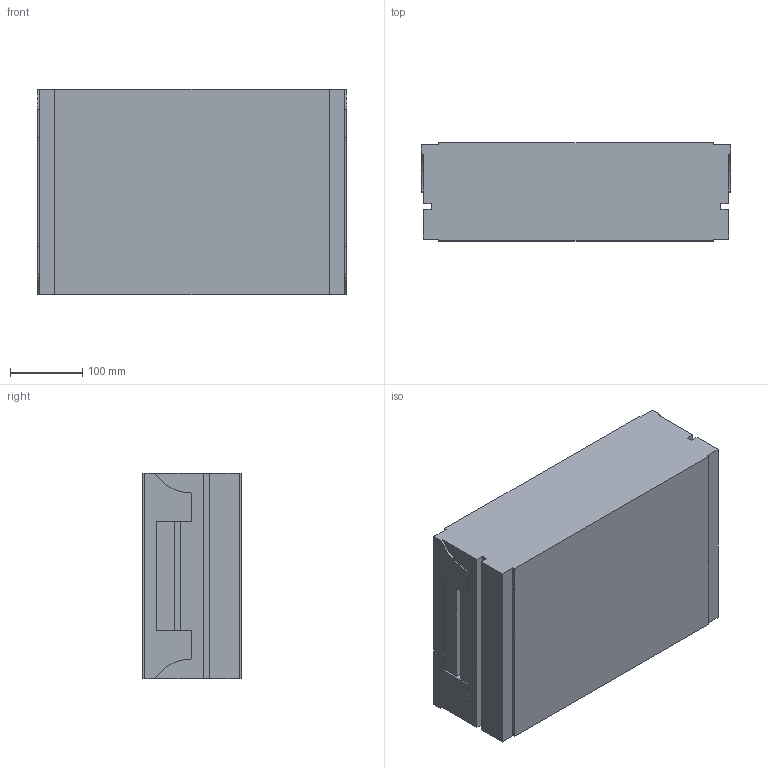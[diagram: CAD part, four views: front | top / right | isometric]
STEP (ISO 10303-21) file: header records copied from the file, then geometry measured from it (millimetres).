
FILE_DESCRIPTION (( 'STEP AP214' ), '1' );
FILE_NAME ('02.150M01.420.N FS-MTC-150 Kettingmont. eenheid.STEP', '2013-03-21T10:13:40', ( 'Gebruiker' ), ( '' ), 'SwSTEP 2.0', 'SolidWorks 2012', '' );
FILE_SCHEMA (( 'AUTOMOTIVE_DESIGN' ));
Length unit declared in the file: millimetre
Products named in the file (1): 02.150M01.420.N FS-MTC-150 Kettingmont. eenheid
Bounding box: 429 x 136 x 285 mm (x, y, z)
Volume: 16309217.3 mm3; surface area: 457068.9 mm2
Topology: 1 solids, 1 shells, 46 faces, 132 edges, 88 vertices
Faces by surface type: plane 42, cylinder 4
Entity records: 1518 total; most frequent: CARTESIAN_POINT 267, ORIENTED_EDGE 264, DIRECTION 234, EDGE_CURVE 132, VECTOR 124, LINE 124, VERTEX_POINT 88, AXIS2_PLACEMENT_3D 55
